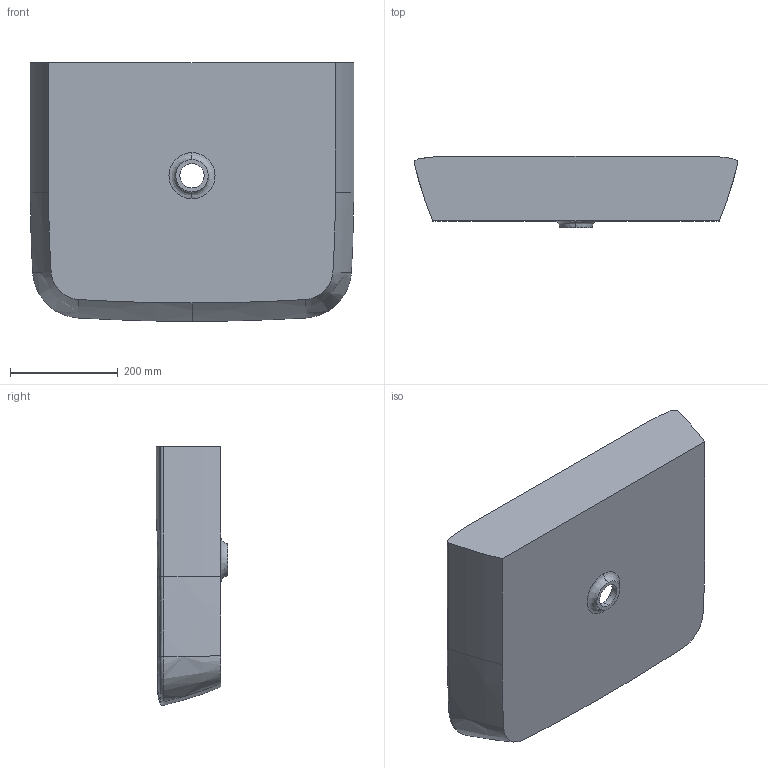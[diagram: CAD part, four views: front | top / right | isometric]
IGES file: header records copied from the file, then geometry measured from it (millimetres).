
Start section:  PTC IGES file: lw10020g.igs
Global section: file name: lw10020g.igs; native system: Pro/ENGINEER by Parametric Technology Corporation; preprocessor: 2009140; author: damjan; organization: Unknown; date: 20100706.104811; units: millimetre
Bounding box: 600.37 x 132.8 x 480.36 mm (x, y, z)
Volume: 17126332.8 mm3; surface area: 835841.7 mm2
Topology: 1 solids, 1 shells, 90 faces, 268 edges, 180 vertices
Faces by surface type: bspline 58, revolution 30, extrusion 2
